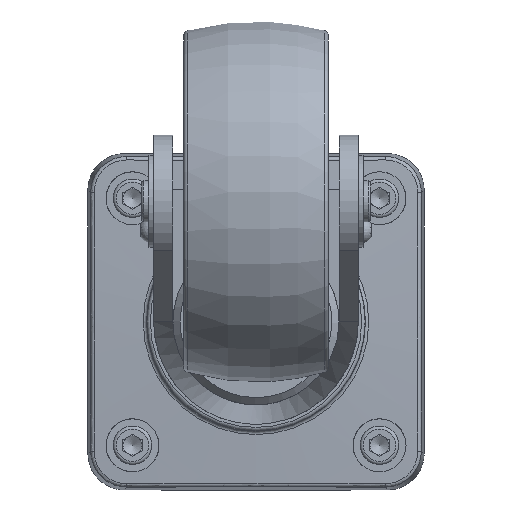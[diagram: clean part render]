
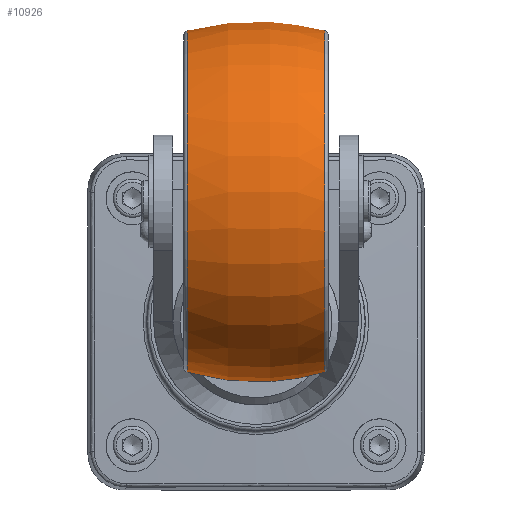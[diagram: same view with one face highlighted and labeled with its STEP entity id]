
A CAD part, front view. The second image highlights one B-rep face of the part: STEP entity #10926.
In plain terms, the highlighted toroidal (fillet/blend) face has major radius 25 mm and minor radius 100 mm.
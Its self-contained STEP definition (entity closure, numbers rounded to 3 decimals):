
#381 = CARTESIAN_POINT ( 'NONE',  ( -8.372, -103.298, 158.302 ) ) ;
#1198 = VERTEX_POINT ( 'NONE', #3276 ) ;
#1547 = EDGE_CURVE ( 'NONE', #1198, #1198, #3290, .T. ) ;
#1903 = EDGE_LOOP ( 'NONE', ( #10165 ) ) ;
#3233 = CARTESIAN_POINT ( 'NONE',  ( -36.943, -103.298, 87.471 ) ) ;
#3276 = CARTESIAN_POINT ( 'NONE',  ( 20.2, -103.298, 229.134 ) ) ;
#3290 = CIRCLE ( 'NONE', #5452, 70.831 ) ;
#3359 = DIRECTION ( 'NONE',  ( 0., 0., 1. ) ) ;
#3658 = FACE_OUTER_BOUND ( 'NONE', #1903, .T. ) ;
#3998 = CARTESIAN_POINT ( 'NONE',  ( -36.943, -103.298, 158.302 ) ) ;
#4167 = EDGE_CURVE ( 'NONE', #5901, #5901, #8027, .T. ) ;
#4727 = DIRECTION ( 'NONE',  ( -1., 0., 0. ) ) ;
#4741 = EDGE_LOOP ( 'NONE', ( #10513 ) ) ;
#5443 = TOROIDAL_SURFACE ( 'NONE', #9152, -25., 100. ) ;
#5452 = AXIS2_PLACEMENT_3D ( 'NONE', #9010, #4727, #8938 ) ;
#5901 = VERTEX_POINT ( 'NONE', #3233 ) ;
#5963 = DIRECTION ( 'NONE',  ( -1., 0., 0. ) ) ;
#6074 = AXIS2_PLACEMENT_3D ( 'NONE', #3998, #10958, #6523 ) ;
#6523 = DIRECTION ( 'NONE',  ( 0., 0., -1. ) ) ;
#8027 = CIRCLE ( 'NONE', #6074, 70.831 ) ;
#8938 = DIRECTION ( 'NONE',  ( 0., 0., 1. ) ) ;
#9010 = CARTESIAN_POINT ( 'NONE',  ( 20.2, -103.298, 158.302 ) ) ;
#9152 = AXIS2_PLACEMENT_3D ( 'NONE', #381, #5963, #3359 ) ;
#10165 = ORIENTED_EDGE ( 'NONE', *, *, #4167, .T. ) ;
#10513 = ORIENTED_EDGE ( 'NONE', *, *, #1547, .T. ) ;
#10770 = FACE_OUTER_BOUND ( 'NONE', #4741, .T. ) ;
#10926 = ADVANCED_FACE ( 'NONE', ( #3658, #10770 ), #5443, .T. ) ;
#10958 = DIRECTION ( 'NONE',  ( 1., 0., 0. ) ) ;
